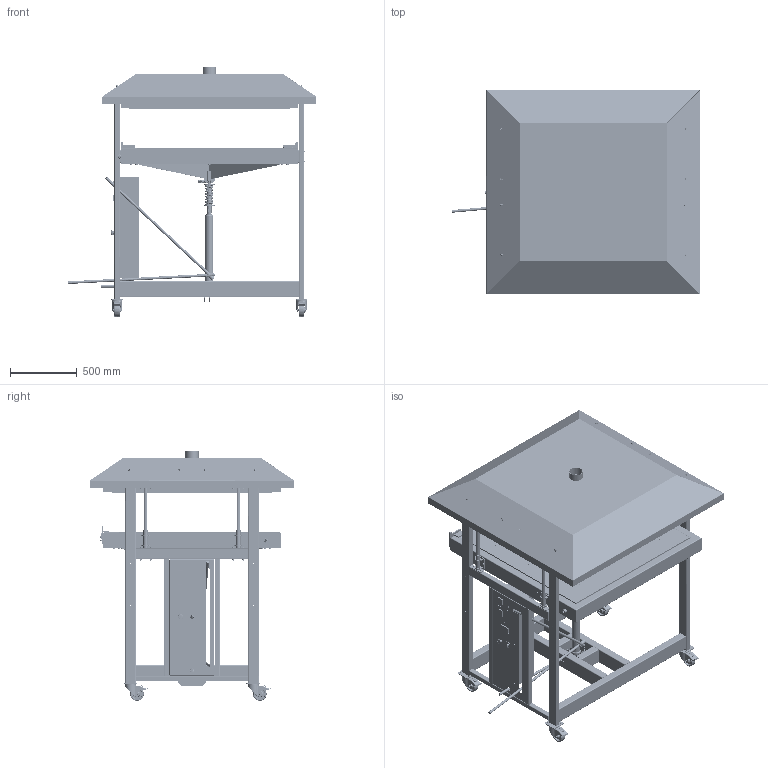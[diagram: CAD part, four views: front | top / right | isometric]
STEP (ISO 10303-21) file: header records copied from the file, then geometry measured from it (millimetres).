
FILE_DESCRIPTION(('STEP AP214'),'1');
FILE_NAME('FF-Sheetpress v4.1.stp','2020-09-03T14:42:05',(' '),(' '),'Spatial InterOp 3D',' ',' ');
FILE_SCHEMA(('AUTOMOTIVE_DESIGN { 1 0 10303 214 1 1 1 1 }'));
Length unit declared in the file: metre
Products named in the file (135): SPR-V1 1000.01-A Side frame; Cut-Extrude3; Cut-Extrude321; Cut-Extrude31; Cut-Extrude312; voetplaat2; Frame^SPR-V1 0000.00-A Sheetpress assembly; SPR-V1 1000.01-A Side frame-1; ALTH_G15_ALTH_100_15K_231191; ALTH_100_15K_G15; LK-ALTH_100K-1-FI_605600-214; GH-LK_100-1-FI_G15; AM_LK_10x52x2,5_G; ALTH_G15_ALTH_100_15K_231191-1; LK-ALTH_100K-1-FI_605600-214-1; ALTH_G15_ALTH_100_15K_231191-2; LK-ALTH_100K-1-FI_605600-214-2; ALTH_G15_ALTH_100_15K_231191-3; LK-ALTH_100K-1-FI_605600-214-3; SPR-V1 0000.01-A Bottom frame jack beams; SPR-V1 0000.01-A Bottom Frame side beams; SPR-V1 0000.01-A Jack mount lower; SPR-V1 0000.01-A Bottom frame jack beams2; Afzuigkap steun; Component22; Component2; FF-Sheetpress v4.1; SPR-V1 2100.01-A Pressing plate frame upper; frameA; frameB; frameC; Pressing plate upper^SPR-V1 0000.00-A Sheetpress assembly; bots and nuts; socket countersunk head screw_iso_ISO 10642 - M8 x 50 - 28N; hex nut gradec_iso_ISO - 4034 - M8 - N; plain washer normal grade a_iso_Washer ISO 7089 - 8; Heating Blocks; SPR-V1 2000.02-A Heating block; Bolts, Nuts, etc; hex nut gradec_iso_ISO - 4034 - M8 - N2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
Assembly tree (776 placements, depth 5):
  FF-Sheetpress v4.1
    Frame^SPR-V1 0000.00-A Sheetpress assembly
      SPR-V1 1000.01-A Side frame
        Cut-Extrude3
        Cut-Extrude321
        Cut-Extrude31
        Cut-Extrude312
        voetplaat2  x2
      SPR-V1 1000.01-A Side frame-1
        Cut-Extrude3
        Cut-Extrude321
        Cut-Extrude31
        Cut-Extrude312
        voetplaat2  x2
      LK-ALTH_100K-1-FI_605600-214
        ALTH_G15_ALTH_100_15K_231191
          ALTH_100_15K_G15
        GH-LK_100-1-FI_G15
        AM_LK_10x52x2,5_G
      LK-ALTH_100K-1-FI_605600-214-1
        ALTH_G15_ALTH_100_15K_231191-1
          ALTH_100_15K_G15
        GH-LK_100-1-FI_G15
        AM_LK_10x52x2,5_G
      LK-ALTH_100K-1-FI_605600-214-2
        ALTH_G15_ALTH_100_15K_231191-2
          ALTH_100_15K_G15
        GH-LK_100-1-FI_G15
        AM_LK_10x52x2,5_G
      LK-ALTH_100K-1-FI_605600-214-3
        ALTH_G15_ALTH_100_15K_231191-3
          ALTH_100_15K_G15
        GH-LK_100-1-FI_G15
        AM_LK_10x52x2,5_G
      SPR-V1 0000.01-A Bottom frame jack beams  x2
      SPR-V1 0000.01-A Bottom Frame side beams  x2
      SPR-V1 0000.01-A Jack mount lower  x3
      SPR-V1 0000.01-A Bottom frame jack beams2  x2
      Afzuigkap steun  x2
      Component22  x2
      Component2
    Pressing plate upper^SPR-V1 0000.00-A Sheetpress assembly
      SPR-V1 2100.01-A Pressing plate frame upper
        frameA
        frameB  x2
        frameC
      Heating Blocks
        bots and nuts
          socket countersunk head screw_iso_ISO 10642 - M8 x 50 - 28N  x50
          hex nut gradec_iso_ISO - 4034 - M8 - N  x50
          plain washer normal grade a_iso_Washer ISO 7089 - 8  x50
        SPR-V1 2000.02-A Heating block  x25
      Bolts, Nuts, etc
        hex nut gradec_iso_ISO - 4034 - M8 - N2  x2
        plain washer normal grade a_iso_Washer ISO 7089 - 82
        plain washer large grade ac_iso_Washer ISO 7093 - 6
        socket button head screw_iso_ISO 7380 - M6 x 12 - 12N
        SPR-V1 14 M25 Cable Gland_M20
        SPR-V1 12 Ceramic terminal  x4
        socket countersunk head screw_iso_ISO 10642 - M8 x 50 - 28N2  x16
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Bounding box: 1860.17 x 1530.42 x 1867.99 mm (x, y, z)
Volume: 94343356.3 mm3; surface area: 46979389.1 mm2
Topology: 818 solids, 846 shells, 23715 faces, 59947 edges, 38409 vertices
Faces by surface type: plane 12468, cylinder 5143, cone 4359, bspline 992, torus 473, extrusion 241, sphere 39
Full cylindrical faces by diameter (mm): 2.032 x2, 2.5 x2, 3 x107, 4 x14, 4.5 x1, 5 x75, 5.334 x20, 5.5 x28, 5.994 x2, 6 x236, 6.4 x17, 6.5 x24, 6.6 x8, 6.8 x199, 7 x4, 8 x386, 8.4 x127, 8.5 x122, 9 x186, 9.5 x16, 10 x26, 10.5 x17, 11.95 x49, 12 x12, 13 x34, 14 x10, 15 x12, 15.24 x132, 15.55 x1, 16 x729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
Entity records: 276258 total; most frequent: CARTESIAN_POINT 85512, ORIENTED_EDGE 35887, DIRECTION 35486, EDGE_CURVE 17945, VERTEX_POINT 12595, VECTOR 11952, AXIS2_PLACEMENT_3D 11767, LINE 11718
